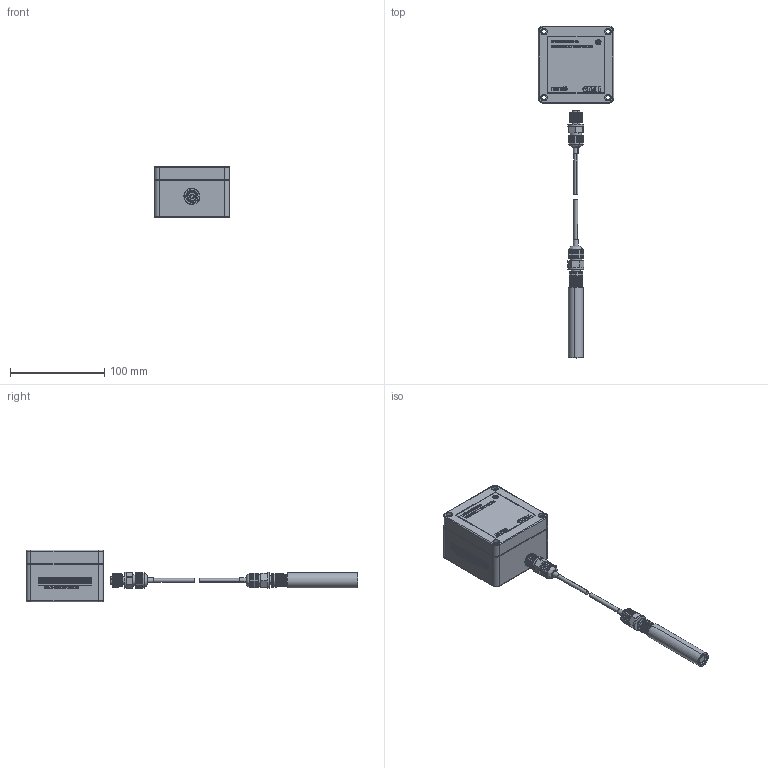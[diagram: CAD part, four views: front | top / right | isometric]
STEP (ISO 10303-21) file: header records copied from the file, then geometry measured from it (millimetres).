
FILE_DESCRIPTION (( 'STEP AP214' ), '1' );
FILE_NAME ('3D ìîäåëü ÏÂÒ100-Í5.STEP', '2017-06-15T14:42:10', ( '' ), ( '' ), 'SwSTEP 2.0', 'SolidWorks 2013', '' );
FILE_SCHEMA (( 'AUTOMOTIVE_DESIGN' ));
Length unit declared in the file: millimetre
Products named in the file (19): 3D ìîäåëü ÏÂÒ100-Í5; 1; ¦¨v°úð ¸ üð¨úø¨þòúþù; T幰取禬2; 33; 32; 31; 30; 29; 27; 26; 25; 24; 23; 22; 21; 佞鷛蘩_2; 佞鷛蘩; -õªðû¹
Assembly tree (18 placements, depth 3):
  3D ìîäåëü ÏÂÒ100-Í5
    -õªðû¹
    佞鷛蘩
    佞鷛蘩_2
    T幰取禬2
      21
      22
      23
      24
      25
      26
      27
      29
      30
      31
      32
      33
    ¦¨v°úð ¸ üð¨úø¨þòúþù
    1
Bounding box: 80 x 352.67 x 55 mm (x, y, z)
Volume: 313966.4 mm3; surface area: 74283 mm2
Topology: 17 solids, 17 shells, 9627 faces, 27078 edges, 18056 vertices
Faces by surface type: plane 8846, bspline 361, cylinder 328, cone 92
Entity records: 313003 total; most frequent: CARTESIAN_POINT 65036, ORIENTED_EDGE 54140, DIRECTION 45621, EDGE_CURVE 27070, VECTOR 25423, LINE 25423, VERTEX_POINT 18056, EDGE_LOOP 10252
